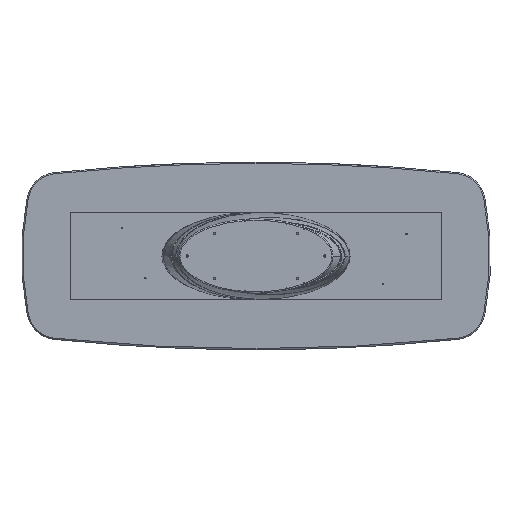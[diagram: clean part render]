
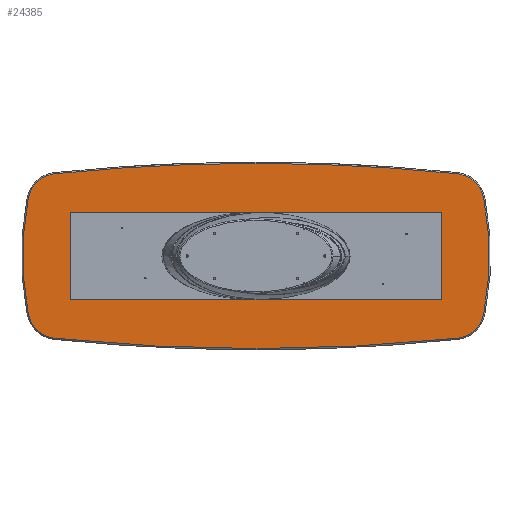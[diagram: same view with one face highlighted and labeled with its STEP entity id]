
A CAD part, front view. The second image highlights one B-rep face of the part: STEP entity #24385.
In plain terms, the highlighted planar face has unit normal (0, -1, 0).
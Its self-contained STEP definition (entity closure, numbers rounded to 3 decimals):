
#380 = FACE_OUTER_BOUND ( 'NONE', #36549, .T. ) ;
#862 = CIRCLE ( 'NONE', #21973, 12492. ) ;
#1834 = CARTESIAN_POINT ( 'NONE',  ( -1454.991, 50., -372.386 ) ) ;
#2050 = CIRCLE ( 'NONE', #31014, 192. ) ;
#2112 = CARTESIAN_POINT ( 'NONE',  ( 0., 50., -11900. ) ) ;
#3091 = AXIS2_PLACEMENT_3D ( 'NONE', #33798, #19064, #4716 ) ;
#3310 = DIRECTION ( 'NONE',  ( 0., 0., 1. ) ) ;
#3981 = CARTESIAN_POINT ( 'NONE',  ( -1454.991, 50., 372.386 ) ) ;
#4554 = EDGE_CURVE ( 'NONE', #17848, #7122, #11611, .T. ) ;
#4716 = DIRECTION ( 'NONE',  ( 0., 0., 1. ) ) ;
#5130 = DIRECTION ( 'NONE',  ( 0., 0., 1. ) ) ;
#5263 = DIRECTION ( 'NONE',  ( 0., -1., 0. ) ) ;
#5439 = EDGE_CURVE ( 'NONE', #6934, #24049, #9819, .T. ) ;
#5511 = VERTEX_POINT ( 'NONE', #25921 ) ;
#5661 = EDGE_CURVE ( 'NONE', #16108, #20163, #35772, .T. ) ;
#5772 = CARTESIAN_POINT ( 'NONE',  ( -400., 50., 0. ) ) ;
#6088 = DIRECTION ( 'NONE',  ( 0., -1., 0. ) ) ;
#6934 = VERTEX_POINT ( 'NONE', #36228 ) ;
#7122 = VERTEX_POINT ( 'NONE', #1834 ) ;
#7596 = DIRECTION ( 'NONE',  ( 0., -1., 0. ) ) ;
#8550 = ORIENTED_EDGE ( 'NONE', *, *, #36123, .T. ) ;
#9612 = DIRECTION ( 'NONE',  ( 0., 0., 1. ) ) ;
#9819 = CIRCLE ( 'NONE', #14640, 192. ) ;
#10429 = CIRCLE ( 'NONE', #31546, 1892. ) ;
#10476 = EDGE_CURVE ( 'NONE', #22976, #16108, #19405, .T. ) ;
#11058 = DIRECTION ( 'NONE',  ( 0., 0., 1. ) ) ;
#11377 = DIRECTION ( 'NONE',  ( 0., 0., 1. ) ) ;
#11611 = CIRCLE ( 'NONE', #24299, 1892. ) ;
#11857 = CARTESIAN_POINT ( 'NONE',  ( -1286.52, 50., -525.576 ) ) ;
#12643 = DIRECTION ( 'NONE',  ( 0., 0., 1. ) ) ;
#13996 = CARTESIAN_POINT ( 'NONE',  ( 400., 50., 0. ) ) ;
#14070 = AXIS2_PLACEMENT_3D ( 'NONE', #14738, #27000, #12643 ) ;
#14459 = CARTESIAN_POINT ( 'NONE',  ( 1286.52, 50., -525.576 ) ) ;
#14640 = AXIS2_PLACEMENT_3D ( 'NONE', #34818, #6088, #11377 ) ;
#14738 = CARTESIAN_POINT ( 'NONE',  ( -633.373, 50., -5782.702 ) ) ;
#14833 = DIRECTION ( 'NONE',  ( 0., 0., 1. ) ) ;
#16108 = VERTEX_POINT ( 'NONE', #14459 ) ;
#16524 = ORIENTED_EDGE ( 'NONE', *, *, #5439, .T. ) ;
#16553 = CIRCLE ( 'NONE', #36472, 192. ) ;
#16731 = ORIENTED_EDGE ( 'NONE', *, *, #34964, .T. ) ;
#17848 = VERTEX_POINT ( 'NONE', #3981 ) ;
#18871 = ORIENTED_EDGE ( 'NONE', *, *, #10476, .T. ) ;
#19064 = DIRECTION ( 'NONE',  ( 0., -1., 0. ) ) ;
#19291 = DIRECTION ( 'NONE',  ( 0., -1., 0. ) ) ;
#19405 = CIRCLE ( 'NONE', #3091, 12492. ) ;
#19466 = AXIS2_PLACEMENT_3D ( 'NONE', #25880, #34395, #31374 ) ;
#19862 = ORIENTED_EDGE ( 'NONE', *, *, #4554, .T. ) ;
#20163 = VERTEX_POINT ( 'NONE', #29448 ) ;
#20767 = DIRECTION ( 'NONE',  ( 0., -1., 0. ) ) ;
#21650 = ORIENTED_EDGE ( 'NONE', *, *, #22376, .T. ) ;
#21973 = AXIS2_PLACEMENT_3D ( 'NONE', #34863, #25465, #14833 ) ;
#22376 = EDGE_CURVE ( 'NONE', #20163, #6934, #10429, .T. ) ;
#22976 = VERTEX_POINT ( 'NONE', #11857 ) ;
#24049 = VERTEX_POINT ( 'NONE', #34018 ) ;
#24299 = AXIS2_PLACEMENT_3D ( 'NONE', #13996, #7596, #5130 ) ;
#24385 = ADVANCED_FACE ( 'NONE', ( #380 ), #29081, .F. ) ;
#25152 = DIRECTION ( 'NONE',  ( 0., 0., 1. ) ) ;
#25465 = DIRECTION ( 'NONE',  ( 0., -1., 0. ) ) ;
#25880 = CARTESIAN_POINT ( 'NONE',  ( 1266.747, 50., -334.597 ) ) ;
#25921 = CARTESIAN_POINT ( 'NONE',  ( 0., 50., 592. ) ) ;
#27000 = DIRECTION ( 'NONE',  ( 0., 1., 0. ) ) ;
#27668 = VERTEX_POINT ( 'NONE', #27818 ) ;
#27818 = CARTESIAN_POINT ( 'NONE',  ( -1286.52, 50., 525.576 ) ) ;
#29076 = CARTESIAN_POINT ( 'NONE',  ( -1266.747, 50., -334.597 ) ) ;
#29081 = PLANE ( 'NONE',  #14070 ) ;
#29413 = EDGE_CURVE ( 'NONE', #7122, #22976, #2050, .T. ) ;
#29448 = CARTESIAN_POINT ( 'NONE',  ( 1454.991, 50., -372.386 ) ) ;
#29849 = CIRCLE ( 'NONE', #31068, 12492. ) ;
#31014 = AXIS2_PLACEMENT_3D ( 'NONE', #29076, #20767, #9612 ) ;
#31068 = AXIS2_PLACEMENT_3D ( 'NONE', #2112, #19291, #25152 ) ;
#31144 = CARTESIAN_POINT ( 'NONE',  ( -1266.747, 50., 334.597 ) ) ;
#31374 = DIRECTION ( 'NONE',  ( 0., 0., 1. ) ) ;
#31546 = AXIS2_PLACEMENT_3D ( 'NONE', #5772, #36959, #11058 ) ;
#31835 = ORIENTED_EDGE ( 'NONE', *, *, #35106, .T. ) ;
#32395 = ORIENTED_EDGE ( 'NONE', *, *, #29413, .T. ) ;
#33798 = CARTESIAN_POINT ( 'NONE',  ( 0., 50., 11900. ) ) ;
#34018 = CARTESIAN_POINT ( 'NONE',  ( 1286.52, 50., 525.576 ) ) ;
#34395 = DIRECTION ( 'NONE',  ( 0., -1., 0. ) ) ;
#34697 = ORIENTED_EDGE ( 'NONE', *, *, #5661, .T. ) ;
#34818 = CARTESIAN_POINT ( 'NONE',  ( 1266.747, 50., 334.597 ) ) ;
#34863 = CARTESIAN_POINT ( 'NONE',  ( 0., 50., -11900. ) ) ;
#34964 = EDGE_CURVE ( 'NONE', #5511, #27668, #862, .T. ) ;
#35106 = EDGE_CURVE ( 'NONE', #27668, #17848, #16553, .T. ) ;
#35772 = CIRCLE ( 'NONE', #19466, 192. ) ;
#36123 = EDGE_CURVE ( 'NONE', #24049, #5511, #29849, .T. ) ;
#36228 = CARTESIAN_POINT ( 'NONE',  ( 1454.991, 50., 372.386 ) ) ;
#36472 = AXIS2_PLACEMENT_3D ( 'NONE', #31144, #5263, #3310 ) ;
#36549 = EDGE_LOOP ( 'NONE', ( #16524, #8550, #16731, #31835, #19862, #32395, #18871, #34697, #21650 ) ) ;
#36959 = DIRECTION ( 'NONE',  ( 0., -1., 0. ) ) ;
